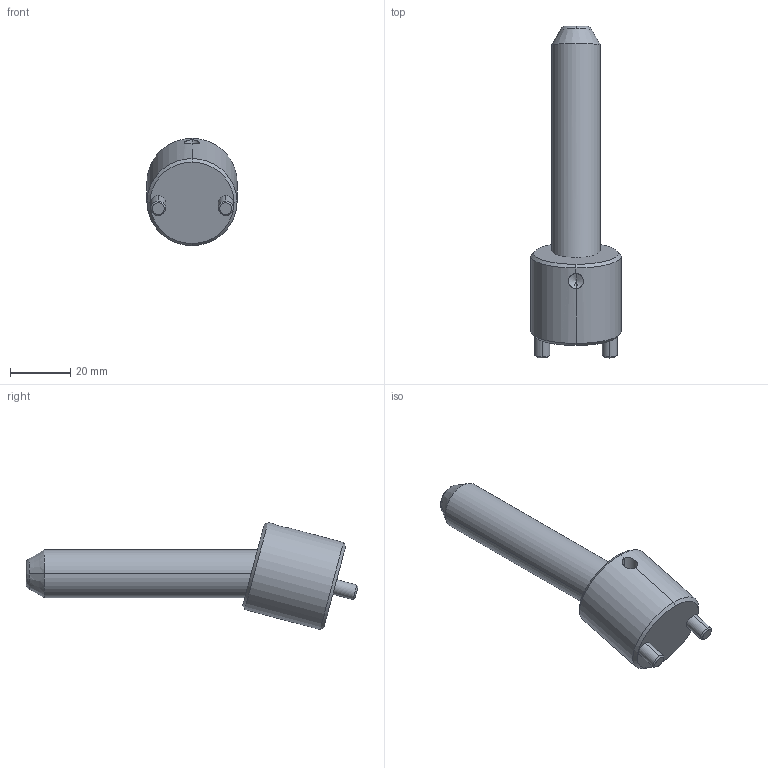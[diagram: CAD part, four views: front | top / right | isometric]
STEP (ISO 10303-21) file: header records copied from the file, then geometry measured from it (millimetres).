
FILE_DESCRIPTION (( 'STEP AP203' ), '1' );
FILE_NAME ('CI1516075.STEP', '2023-12-07T23:06:19', ( '' ), ( '' ), 'SwSTEP 2.0', 'SolidWorks 2017', '' );
FILE_SCHEMA (( 'CONFIG_CONTROL_DESIGN' ));
Length unit declared in the file: millimetre
Products named in the file (3): CI1516075; CP1675; CS1516
Assembly tree (2 placements, depth 2):
  CI1516075
    CP1675
    CS1516
Bounding box: 30 x 110.58 x 35.71 mm (x, y, z)
Volume: 34329.7 mm3; surface area: 10705.7 mm2
Topology: 2 solids, 2 shells, 37 faces, 81 edges, 47 vertices
Faces by surface type: cylinder 14, cone 14, plane 7, bspline 2
Entity records: 1616 total; most frequent: CARTESIAN_POINT 522, DIRECTION 182, ORIENTED_EDGE 156, EDGE_CURVE 78, AXIS2_PLACEMENT_3D 76, VERTEX_POINT 47, EDGE_LOOP 41, FACE_OUTER_BOUND 37
